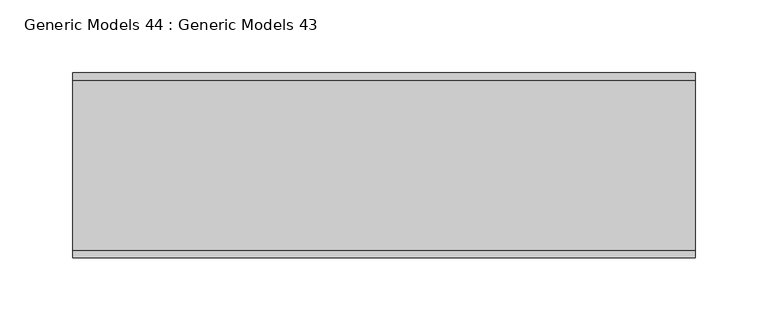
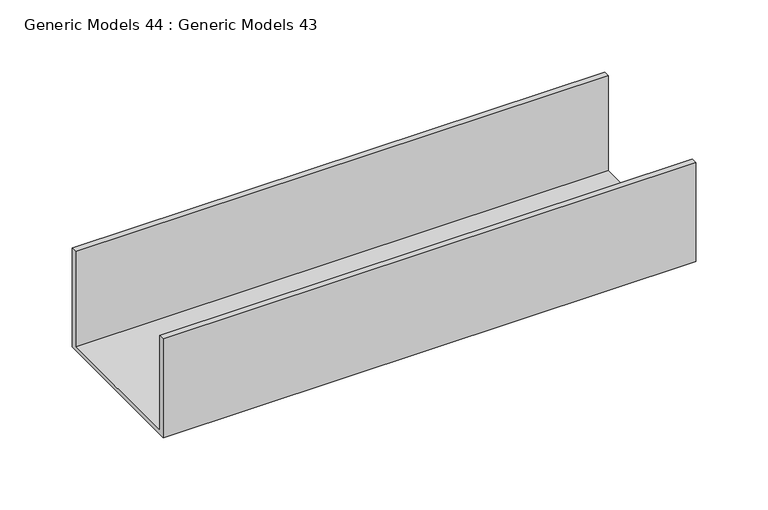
"""IFC4 building model written with IfcOpenShell, lengths in millimetres: proxy geometry, Generic Models 44 : Generic Models 43."""

import ifcopenshell
import ifcopenshell.guid

model = None  # the IFC model being written
_history = None  # IfcOwnerHistory: only IFC2X3 demands one
_inside = {}  # id of a spatial element -> (the spatial element, [elements in it])
_under = {}  # id of a project, library or spatial element -> (it, [spatial elements below it])
_declared = {}  # id of a project -> (the project, [libraries it declares])
_typed = {}  # id of a type object -> (the type object, [elements of that type])
_made_of = {}  # id of a material, layer set ... -> (it, [elements and type objects made of it])


def new_model(schema):
    """Start an empty IFC model of exactly this schema.

    Asked for "IFC4X3", IfcOpenShell would pick the latest addendum, in which some entities
    have other attributes; the version numbers below select the first issue.
    IFC2X3 requires an IfcOwnerHistory on every rooted entity: one is made here for all.
    """
    global model, _history
    if schema == "IFC4X3":
        model = ifcopenshell.file(schema_version=(4, 3, 0, 0))
    else:
        model = ifcopenshell.file(schema=schema)
    _inside.clear()
    _under.clear()
    _declared.clear()
    _typed.clear()
    _made_of.clear()
    _history = None
    if model.schema == "IFC2X3":
        org = make("IfcOrganization", Name="unknown")
        user = make(
            "IfcPersonAndOrganization",
            ThePerson=make("IfcPerson", FamilyName="unknown"),
            TheOrganization=org,
        )
        app = make(
            "IfcApplication",
            ApplicationDeveloper=org,
            Version="unknown",
            ApplicationFullName="unknown",
            ApplicationIdentifier="unknown",
        )
        _history = make(
            "IfcOwnerHistory",
            OwningUser=user,
            OwningApplication=app,
            ChangeAction="ADDED",
            CreationDate=0,
        )
    return model


def make(cls, **values):
    """One entity of the class cls with the attributes given. An attribute that is None is left unset."""
    return model.create_entity(
        cls, **{name: value for name, value in values.items() if value is not None}
    )


def rooted(cls, **values):
    """An entity with a GlobalId (a new one), such as an element, a storey or a relation."""
    return make(cls, GlobalId=ifcopenshell.guid.new(), OwnerHistory=_history, **values)


def si_unit(unit_type, name, prefix=None):
    """IfcSIUnit, for example si_unit("LENGTHUNIT", "METRE", prefix="MILLI")."""
    return make("IfcSIUnit", UnitType=unit_type, Prefix=prefix, Name=name)


def assignment(units):
    """IfcUnitAssignment: the units of a project."""
    return None if units is None else make("IfcUnitAssignment", Units=units)


def point(xyz):
    """IfcCartesianPoint."""
    return None if xyz is None else make("IfcCartesianPoint", Coordinates=xyz)


def direction(xyz):
    """IfcDirection."""
    return None if xyz is None else make("IfcDirection", DirectionRatios=xyz)


def frame(location, z_axis=None, x_axis=None):
    """IfcAxis2Placement3D, a coordinate frame: its origin and axes. An axis left out is left unset."""
    return make(
        "IfcAxis2Placement3D",
        Location=point(location),
        Axis=direction(z_axis),
        RefDirection=direction(x_axis),
    )


def origin():
    """The frame at (0, 0, 0) with its axes left unset."""
    return frame((0.0, 0.0, 0.0))


def place(relative_to, where):
    """IfcLocalPlacement: puts the frame where relative to a parent placement (None: the world)."""
    return make(
        "IfcLocalPlacement", PlacementRelTo=relative_to, RelativePlacement=where
    )


def context(
    kind, dimensions, precision=None, world=None, true_north=None, identifier=None
):
    """IfcGeometricRepresentationContext, for example the 3D "Model" context."""
    return make(
        "IfcGeometricRepresentationContext",
        ContextIdentifier=identifier,
        ContextType=kind,
        CoordinateSpaceDimension=dimensions,
        Precision=precision,
        WorldCoordinateSystem=world,
        TrueNorth=true_north,
    )


def project(units=None, contexts=None):
    """IfcProject with its units and contexts."""
    return rooted(
        "IfcProject",
        Name="project",
        RepresentationContexts=contexts,
        UnitsInContext=assignment(units),
    )


def spatial(cls, under=None, at=None, **own):
    """A site, building, storey or space (cls), placed at a placement, below another one or the project."""
    s = rooted(cls, ObjectPlacement=at, **own)
    if under is not None:
        _under.setdefault(under.id(), (under, []))[1].append(s)
    return s


def polyline(points):
    """IfcPolyline through the points."""
    return make("IfcPolyline", Points=[point(p) for p in points])


def outline(outer, holes=None, kind="AREA"):
    """IfcArbitraryClosedProfileDef: a profile drawn as a closed curve; with holes, ...WithVoids."""
    if holes is None:
        return make("IfcArbitraryClosedProfileDef", ProfileType=kind, OuterCurve=outer)
    return make(
        "IfcArbitraryProfileDefWithVoids",
        ProfileType=kind,
        OuterCurve=outer,
        InnerCurves=holes,
    )


def extrude(swept, where, along, depth):
    """IfcExtrudedAreaSolid: the profile swept, set in the frame where, extruded along a direction by depth."""
    return make(
        "IfcExtrudedAreaSolid",
        SweptArea=swept,
        Position=where,
        ExtrudedDirection=direction(along),
        Depth=depth,
    )


def shape(context_of_items, identifier, shape_type, items):
    """IfcShapeRepresentation: the items that make up one representation, for example the "Body"."""
    return make(
        "IfcShapeRepresentation",
        ContextOfItems=context_of_items,
        RepresentationIdentifier=identifier,
        RepresentationType=shape_type,
        Items=items,
    )


def source(mapping_origin, context_of_items, identifier, shape_type, items):
    """IfcRepresentationMap: a shape defined once, which mapped items show again and again."""
    return make(
        "IfcRepresentationMap",
        MappingOrigin=mapping_origin,
        MappedRepresentation=shape(context_of_items, identifier, shape_type, items),
    )


def transform(
    local_origin,
    x_axis=None,
    y_axis=None,
    z_axis=None,
    scale=None,
    scale2=None,
    scale3=None,
    uniform=True,
):
    """IfcCartesianTransformationOperator3D, or its non-uniform kind. x_axis, y_axis, z_axis: its Axis1, 2, 3."""
    if uniform:
        return make(
            "IfcCartesianTransformationOperator3D",
            Axis1=direction(x_axis),
            Axis2=direction(y_axis),
            LocalOrigin=point(local_origin),
            Scale=scale,
            Axis3=direction(z_axis),
        )
    return make(
        "IfcCartesianTransformationOperator3DnonUniform",
        Axis1=direction(x_axis),
        Axis2=direction(y_axis),
        LocalOrigin=point(local_origin),
        Scale=scale,
        Axis3=direction(z_axis),
        Scale2=scale2,
        Scale3=scale3,
    )


def mapped(mapping_source, mapping_target):
    """IfcMappedItem: shows the shape of a source again, moved by a transform."""
    return make(
        "IfcMappedItem", MappingSource=mapping_source, MappingTarget=mapping_target
    )


def made_of(thing, what):
    """Note that an element or type object is made of a material, layer set ...; save() writes the relation."""
    if what is not None:
        _made_of.setdefault(what.id(), (what, []))[1].append(thing)
    return thing


def element(
    cls,
    number,
    at=None,
    inside=None,
    cuts=None,
    type_object=None,
    material=None,
    context=None,
    identifier="Body",
    shape_type=None,
    held_by="IfcProductDefinitionShape",
    body=None,
    shapes=None,
    **own,
):
    """One element of the class cls, such as IfcWall. Its Tag is "e" and its number.

    at: its placement. inside: the storey or other place that contains it. cuts: it is an
    opening in that element (IfcRelVoidsElement). A single representation is given by context,
    identifier, shape_type and body (its items); several are given by shapes. held_by: the class
    of the entity that holds the representations. save() writes the other relations.
    """
    e = rooted(cls, Tag="e%d" % number, ObjectPlacement=at, **own)
    if body is not None:
        shapes = [shape(context, identifier, shape_type, body)]
    if shapes is not None:
        e.Representation = make(held_by, Representations=shapes)
    if inside is not None:
        _inside.setdefault(inside.id(), (inside, []))[1].append(e)
    if cuts is not None:
        rooted(
            "IfcRelVoidsElement", RelatingBuildingElement=cuts, RelatedOpeningElement=e
        )
    if type_object is not None:
        _typed.setdefault(type_object.id(), (type_object, []))[1].append(e)
    return made_of(e, material)


def aggregate(whole, parts):
    """IfcRelAggregates: a whole, such as a stair, and the parts it consists of."""
    return rooted("IfcRelAggregates", RelatingObject=whole, RelatedObjects=parts)


def save(model, path):
    """Write the relations noted so far, then the file.

    IfcRelAggregates (storeys below a building ...), IfcRelContainedInSpatialStructure (elements
    in a storey), IfcRelDefinesByType, IfcRelAssociatesMaterial and IfcRelDeclares: one each for
    every whole, place, type object, material and project.
    """
    for whole, parts in _under.values():
        aggregate(whole, parts)
    for where, things in _inside.values():
        rooted(
            "IfcRelContainedInSpatialStructure",
            RelatedElements=things,
            RelatingStructure=where,
        )
    for kind, things in _typed.values():
        rooted("IfcRelDefinesByType", RelatedObjects=things, RelatingType=kind)
    for what, things in _made_of.values():
        rooted("IfcRelAssociatesMaterial", RelatedObjects=things, RelatingMaterial=what)
    for by, libraries in _declared.values():
        rooted("IfcRelDeclares", RelatingContext=by, RelatedDefinitions=libraries)
    model.write(path)


def generic_models_44_generic_models_43_9f6ffdae(model_context):
    return source(origin(), model_context, "Body", "SweptSolid", [
        extrude(outline(polyline([(20957.9011085, 1136.0779645), (20957.9011085, 1219.9511988), (20962.9011085, 1219.9511988), (20962.9011085, 1139.3658047), (21079.8313854, 1139.3658047), (21079.8313854, 1219.9511988), (21084.8313854, 1219.9511988), (21084.8313854, 1136.0779645), (20957.9011085, 1136.0779645)])), frame((87971.854532, 0.0, 0.0), z_axis=(1.0, 0.0, 0.0), x_axis=(0.0, 1.0, 0.0)), (0.0, 0.0, 1.0), 426.9427527),
    ])


if __name__ == "__main__":
    model = new_model("IFC4")
    model_context = context("Model", 3, world=origin())
    ifc_project = project(units=[si_unit("LENGTHUNIT", "METRE", prefix="MILLI")], contexts=[model_context])
    site = spatial("IfcSite", under=ifc_project)
    building = spatial("IfcBuilding", under=site)
    placement = place(None, origin())
    generic_models_44_generic_models_43_shape = generic_models_44_generic_models_43_9f6ffdae(model_context)
    element("IfcBuildingElementProxy", 1, Name="Generic Models 44 : Generic Models 43", ObjectType="Generic Models 44 : Generic Models 43", at=placement, inside=building, context=model_context, shape_type="MappedRepresentation", body=[
        mapped(generic_models_44_generic_models_43_shape, transform((0.0, 0.0, 0.0), x_axis=(1.0, 0.0, 0.0), y_axis=(0.0, 1.0, 0.0), z_axis=(0.0, 0.0, 1.0))),
    ])
    save(model, "model.ifc")
